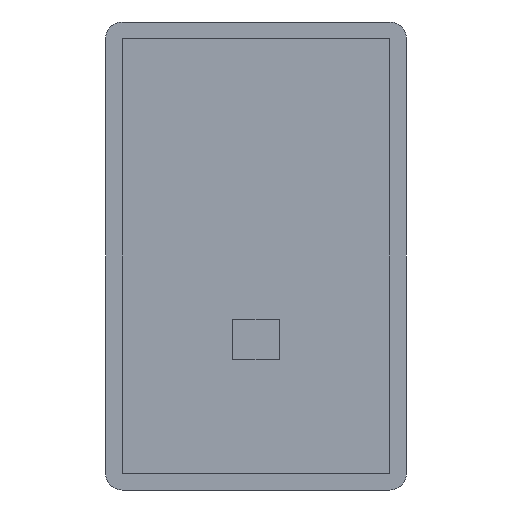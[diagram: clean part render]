
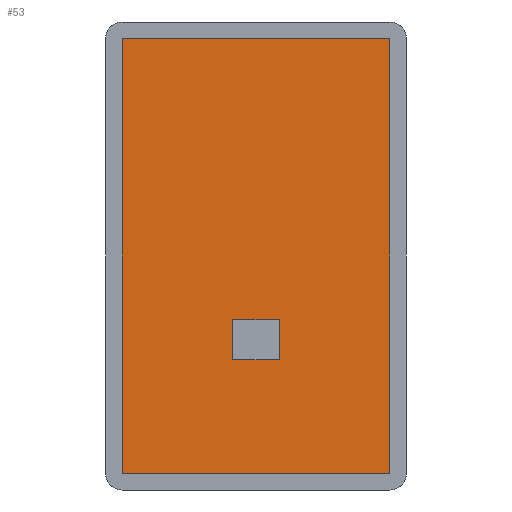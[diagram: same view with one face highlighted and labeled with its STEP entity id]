
A CAD part, left-side view. The second image highlights one B-rep face of the part: STEP entity #53.
In plain terms, the highlighted planar face has unit normal (-1, 0, 0).
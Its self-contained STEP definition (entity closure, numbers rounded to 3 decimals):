
#53=ADVANCED_FACE('',(#305,#307),#309,.T.);
#305=FACE_BOUND('',#306,.T.);
#306=EDGE_LOOP('',(#505,#506,#507,#508));
#307=FACE_BOUND('',#308,.T.);
#308=EDGE_LOOP('',(#509,#510,#511,#512));
#309=PLANE('',#310);
#310=AXIS2_PLACEMENT_3D('',#311,#312,#313);
#311=CARTESIAN_POINT('',(-15.,0.,0.));
#312=DIRECTION('',(-1.,0.,0.));
#313=DIRECTION('',(0.,-1.,0.));
#505=ORIENTED_EDGE('',*,*,#633,.T.);
#506=ORIENTED_EDGE('',*,*,#634,.T.);
#507=ORIENTED_EDGE('',*,*,#635,.T.);
#508=ORIENTED_EDGE('',*,*,#636,.T.);
#509=ORIENTED_EDGE('',*,*,#637,.F.);
#510=ORIENTED_EDGE('',*,*,#638,.F.);
#511=ORIENTED_EDGE('',*,*,#639,.F.);
#512=ORIENTED_EDGE('',*,*,#640,.F.);
#633=EDGE_CURVE('',#697,#698,#699,.T.);
#634=EDGE_CURVE('',#698,#700,#701,.T.);
#635=EDGE_CURVE('',#700,#702,#703,.T.);
#636=EDGE_CURVE('',#702,#697,#704,.T.);
#637=EDGE_CURVE('',#705,#706,#707,.T.);
#638=EDGE_CURVE('',#708,#705,#709,.T.);
#639=EDGE_CURVE('',#710,#708,#711,.T.);
#640=EDGE_CURVE('',#706,#710,#712,.T.);
#697=VERTEX_POINT('',#801);
#698=VERTEX_POINT('',#802);
#699=LINE('',#803,#804);
#700=VERTEX_POINT('',#806);
#701=LINE('',#807,#808);
#702=VERTEX_POINT('',#810);
#703=LINE('',#811,#812);
#704=LINE('',#814,#815);
#705=VERTEX_POINT('',#817);
#706=VERTEX_POINT('',#818);
#707=LINE('',#819,#820);
#708=VERTEX_POINT('',#822);
#709=LINE('',#823,#824);
#710=VERTEX_POINT('',#826);
#711=LINE('',#827,#828);
#712=LINE('',#830,#831);
#801=CARTESIAN_POINT('',(-15.,-40.,-65.));
#802=CARTESIAN_POINT('',(-15.,-40.,65.));
#803=CARTESIAN_POINT('',(-15.,-40.,-65.));
#804=VECTOR('',#805,1.);
#805=DIRECTION('',(0.,0.,1.));
#806=CARTESIAN_POINT('',(-15.,40.,65.));
#807=CARTESIAN_POINT('',(-15.,-40.,65.));
#808=VECTOR('',#809,1.);
#809=DIRECTION('',(0.,1.,0.));
#810=CARTESIAN_POINT('',(-15.,40.,-65.));
#811=CARTESIAN_POINT('',(-15.,40.,65.));
#812=VECTOR('',#813,1.);
#813=DIRECTION('',(0.,0.,-1.));
#814=CARTESIAN_POINT('',(-15.,40.,-65.));
#815=VECTOR('',#816,1.);
#816=DIRECTION('',(0.,-1.,0.));
#817=CARTESIAN_POINT('',(-15.,-7.,-31.));
#818=CARTESIAN_POINT('',(-15.,-7.,-19.));
#819=CARTESIAN_POINT('',(-15.,-7.,-31.));
#820=VECTOR('',#821,1.);
#821=DIRECTION('',(0.,0.,1.));
#822=CARTESIAN_POINT('',(-15.,7.,-31.));
#823=CARTESIAN_POINT('',(-15.,7.,-31.));
#824=VECTOR('',#825,1.);
#825=DIRECTION('',(0.,-1.,0.));
#826=CARTESIAN_POINT('',(-15.,7.,-19.));
#827=CARTESIAN_POINT('',(-15.,7.,-19.));
#828=VECTOR('',#829,1.);
#829=DIRECTION('',(0.,0.,-1.));
#830=CARTESIAN_POINT('',(-15.,-7.,-19.));
#831=VECTOR('',#832,1.);
#832=DIRECTION('',(0.,1.,0.));
